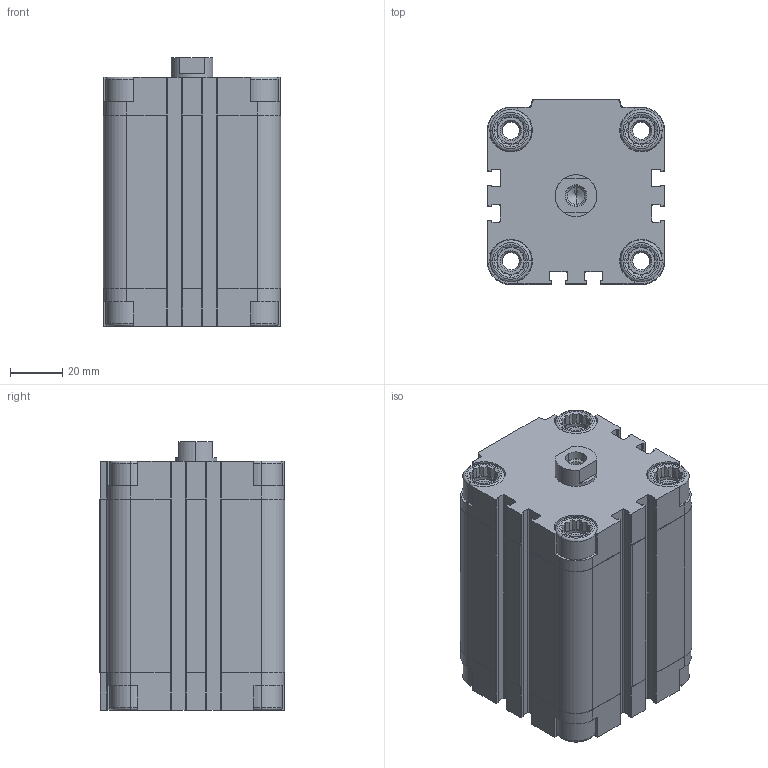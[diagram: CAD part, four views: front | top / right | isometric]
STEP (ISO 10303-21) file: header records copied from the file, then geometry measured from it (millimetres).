
FILE_DESCRIPTION (( 'STEP AP203' ), '1' );
FILE_NAME ('CDVU50-50F.STEP', '2020-03-30T15:00:36', ( '' ), ( '' ), 'SwSTEP 2.0', 'SolidWorks 2019', '' );
FILE_SCHEMA (( 'CONFIG_CONTROL_DESIGN' ));
Length unit declared in the file: millimetre
Products named in the file (1): CDVU50-50F
Bounding box: 68 x 71 x 103 mm (x, y, z)
Volume: 307189.2 mm3; surface area: 79708.9 mm2
Topology: 2 solids, 2 shells, 709 faces, 1894 edges, 1223 vertices
Faces by surface type: plane 417, cylinder 230, cone 46, torus 16
Entity records: 22245 total; most frequent: CARTESIAN_POINT 4397, ORIENTED_EDGE 3776, DIRECTION 3652, EDGE_CURVE 1888, AXIS2_PLACEMENT_3D 1246, VERTEX_POINT 1223, VECTOR 1160, LINE 1160
